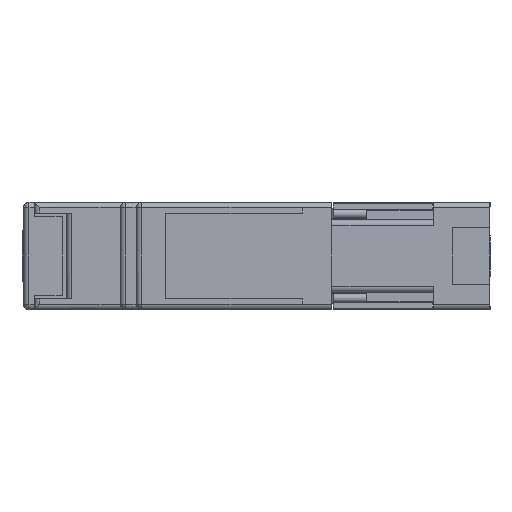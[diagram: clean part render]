
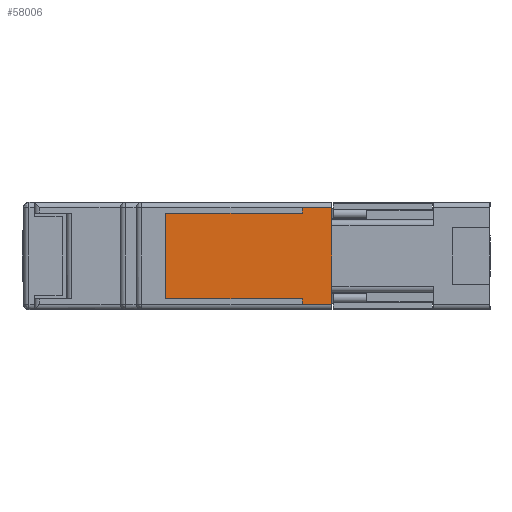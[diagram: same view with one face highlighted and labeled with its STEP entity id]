
A CAD part, left-side view. The second image highlights one B-rep face of the part: STEP entity #58006.
In plain terms, the highlighted planar face has unit normal (-1, 0, 0).
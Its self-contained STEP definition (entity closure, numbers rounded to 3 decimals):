
#94 = CARTESIAN_POINT ( 'NONE',  ( -4.5, 65., -96.054 ) ) ;
#4246 = ORIENTED_EDGE ( 'NONE', *, *, #45013, .T. ) ;
#4659 = CARTESIAN_POINT ( 'NONE',  ( -4.5, 35., -18. ) ) ;
#4951 = CARTESIAN_POINT ( 'NONE',  ( -4.5, 29.5, -1. ) ) ;
#5566 = CARTESIAN_POINT ( 'NONE',  ( -4.5, 35., -96.054 ) ) ;
#7143 = LINE ( 'NONE', #70892, #23414 ) ;
#7969 = CARTESIAN_POINT ( 'NONE',  ( -4.5, 65., -18. ) ) ;
#9169 = DIRECTION ( 'NONE',  ( 0., 1., 0. ) ) ;
#12216 = CARTESIAN_POINT ( 'NONE',  ( -4.5, 60.5, -96.054 ) ) ;
#13667 = VERTEX_POINT ( 'NONE', #47054 ) ;
#14551 = EDGE_CURVE ( 'NONE', #37925, #33975, #39855, .T. ) ;
#17561 = LINE ( 'NONE', #12216, #34755 ) ;
#17667 = CARTESIAN_POINT ( 'NONE',  ( -4.5, 35., -2. ) ) ;
#17860 = DIRECTION ( 'NONE',  ( 0., 0., -1. ) ) ;
#18033 = DIRECTION ( 'NONE',  ( -1., 0., 0. ) ) ;
#18317 = DIRECTION ( 'NONE',  ( 0., 0., -1. ) ) ;
#18843 = CARTESIAN_POINT ( 'NONE',  ( -4.5, 65., -2. ) ) ;
#20487 = VECTOR ( 'NONE', #69137, 1000. ) ;
#21139 = EDGE_CURVE ( 'NONE', #53992, #33975, #17561, .T. ) ;
#21425 = AXIS2_PLACEMENT_3D ( 'NONE', #94, #18033, #37206 ) ;
#23414 = VECTOR ( 'NONE', #9169, 1000. ) ;
#23820 = ORIENTED_EDGE ( 'NONE', *, *, #33826, .T. ) ;
#24760 = CARTESIAN_POINT ( 'NONE',  ( -4.5, 65., -19. ) ) ;
#25144 = CARTESIAN_POINT ( 'NONE',  ( -4.5, 60.5, -18. ) ) ;
#26932 = EDGE_CURVE ( 'NONE', #34973, #13667, #65635, .T. ) ;
#30360 = DIRECTION ( 'NONE',  ( 0., 0., 1. ) ) ;
#31082 = VERTEX_POINT ( 'NONE', #62563 ) ;
#31605 = DIRECTION ( 'NONE',  ( 0., 1., 0. ) ) ;
#32422 = ORIENTED_EDGE ( 'NONE', *, *, #14551, .T. ) ;
#33826 = EDGE_CURVE ( 'NONE', #13667, #57821, #54878, .T. ) ;
#33975 = VERTEX_POINT ( 'NONE', #76668 ) ;
#34092 = VECTOR ( 'NONE', #31605, 1000. ) ;
#34755 = VECTOR ( 'NONE', #30360, 1000. ) ;
#34973 = VERTEX_POINT ( 'NONE', #37924 ) ;
#37206 = DIRECTION ( 'NONE',  ( 0., -1., 0. ) ) ;
#37914 = ORIENTED_EDGE ( 'NONE', *, *, #21139, .F. ) ;
#37924 = CARTESIAN_POINT ( 'NONE',  ( -4.5, 35., -19. ) ) ;
#37925 = VERTEX_POINT ( 'NONE', #17667 ) ;
#39165 = EDGE_LOOP ( 'NONE', ( #57206, #54982, #23820, #43123, #72840, #32422, #37914, #4246 ) ) ;
#39855 = LINE ( 'NONE', #18843, #34092 ) ;
#43123 = ORIENTED_EDGE ( 'NONE', *, *, #55434, .T. ) ;
#45013 = EDGE_CURVE ( 'NONE', #53992, #77097, #78425, .T. ) ;
#45240 = LINE ( 'NONE', #49096, #77150 ) ;
#47054 = CARTESIAN_POINT ( 'NONE',  ( -4.5, 29.5, -19. ) ) ;
#49053 = VECTOR ( 'NONE', #49708, 1000. ) ;
#49096 = CARTESIAN_POINT ( 'NONE',  ( -4.5, 35., -96.054 ) ) ;
#49275 = EDGE_CURVE ( 'NONE', #31082, #37925, #45240, .T. ) ;
#49708 = DIRECTION ( 'NONE',  ( 0., 0., 1. ) ) ;
#50291 = DIRECTION ( 'NONE',  ( 0., -1., 0. ) ) ;
#50332 = EDGE_CURVE ( 'NONE', #77097, #34973, #64139, .T. ) ;
#50692 = VECTOR ( 'NONE', #17860, 1000. ) ;
#53359 = VECTOR ( 'NONE', #50291, 1000. ) ;
#53992 = VERTEX_POINT ( 'NONE', #25144 ) ;
#54878 = LINE ( 'NONE', #67504, #49053 ) ;
#54982 = ORIENTED_EDGE ( 'NONE', *, *, #26932, .T. ) ;
#55434 = EDGE_CURVE ( 'NONE', #57821, #31082, #7143, .T. ) ;
#57206 = ORIENTED_EDGE ( 'NONE', *, *, #50332, .T. ) ;
#57821 = VERTEX_POINT ( 'NONE', #4951 ) ;
#58006 = ADVANCED_FACE ( 'NONE', ( #72526 ), #62028, .T. ) ;
#62028 = PLANE ( 'NONE',  #21425 ) ;
#62563 = CARTESIAN_POINT ( 'NONE',  ( -4.5, 35., -1. ) ) ;
#64139 = LINE ( 'NONE', #5566, #50692 ) ;
#65635 = LINE ( 'NONE', #24760, #20487 ) ;
#67504 = CARTESIAN_POINT ( 'NONE',  ( -4.5, 29.5, -96.054 ) ) ;
#69137 = DIRECTION ( 'NONE',  ( 0., -1., 0. ) ) ;
#70892 = CARTESIAN_POINT ( 'NONE',  ( -4.5, 65., -1. ) ) ;
#72526 = FACE_OUTER_BOUND ( 'NONE', #39165, .T. ) ;
#72840 = ORIENTED_EDGE ( 'NONE', *, *, #49275, .T. ) ;
#76668 = CARTESIAN_POINT ( 'NONE',  ( -4.5, 60.5, -2. ) ) ;
#77097 = VERTEX_POINT ( 'NONE', #4659 ) ;
#77150 = VECTOR ( 'NONE', #18317, 1000. ) ;
#78425 = LINE ( 'NONE', #7969, #53359 ) ;
